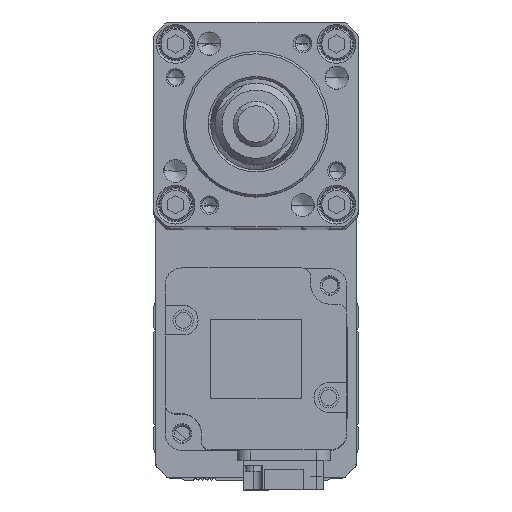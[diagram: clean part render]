
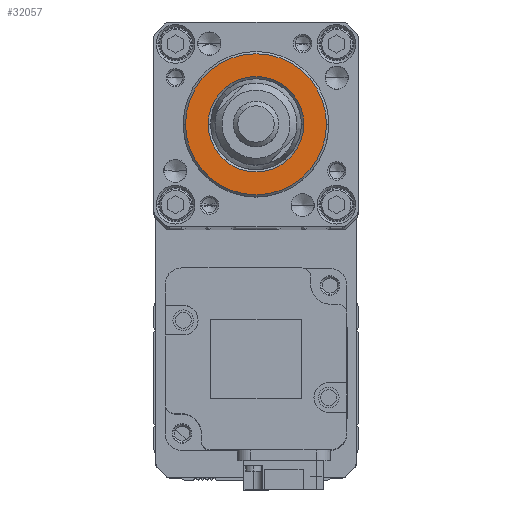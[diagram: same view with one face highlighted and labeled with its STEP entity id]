
A CAD part, top view. The second image highlights one B-rep face of the part: STEP entity #32057.
In plain terms, the highlighted planar face has unit normal (0, 0, 1).
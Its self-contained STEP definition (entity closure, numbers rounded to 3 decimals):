
#307 = AXIS2_PLACEMENT_3D ( 'NONE', #31688, #16621, #1593 ) ;
#928 = VERTEX_POINT ( 'NONE', #13318 ) ;
#1593 = DIRECTION ( 'NONE',  ( 1., 0., 0. ) ) ;
#2168 = EDGE_CURVE ( 'NONE', #11878, #30778, #12471, .T. ) ;
#2239 = EDGE_LOOP ( 'NONE', ( #18112, #6328 ) ) ;
#3425 = EDGE_CURVE ( 'NONE', #30778, #11878, #5704, .T. ) ;
#3732 = DIRECTION ( 'NONE',  ( 0., 0., -1. ) ) ;
#4718 = ORIENTED_EDGE ( 'NONE', *, *, #2168, .T. ) ;
#5704 = CIRCLE ( 'NONE', #16606, 15.5 ) ;
#6328 = ORIENTED_EDGE ( 'NONE', *, *, #25265, .T. ) ;
#7716 = DIRECTION ( 'NONE',  ( 0., 0., 1. ) ) ;
#9358 = DIRECTION ( 'NONE',  ( 0., 0., 1. ) ) ;
#11303 = AXIS2_PLACEMENT_3D ( 'NONE', #22773, #7716, #25284 ) ;
#11878 = VERTEX_POINT ( 'NONE', #12665 ) ;
#12471 = CIRCLE ( 'NONE', #11303, 15.5 ) ;
#12665 = CARTESIAN_POINT ( 'NONE',  ( 15.5, 0., 407. ) ) ;
#13030 = CARTESIAN_POINT ( 'NONE',  ( 0., 0., 407. ) ) ;
#13318 = CARTESIAN_POINT ( 'NONE',  ( -10.5, 0., 407. ) ) ;
#13371 = EDGE_LOOP ( 'NONE', ( #19810, #4718 ) ) ;
#15299 = CIRCLE ( 'NONE', #26042, 10.5 ) ;
#15564 = DIRECTION ( 'NONE',  ( 1., 0., 0. ) ) ;
#16606 = AXIS2_PLACEMENT_3D ( 'NONE', #13030, #30621, #15564 ) ;
#16621 = DIRECTION ( 'NONE',  ( 0., 0., -1. ) ) ;
#18112 = ORIENTED_EDGE ( 'NONE', *, *, #21764, .T. ) ;
#18794 = CARTESIAN_POINT ( 'NONE',  ( 0., 0., 407. ) ) ;
#19373 = PLANE ( 'NONE',  #28971 ) ;
#19810 = ORIENTED_EDGE ( 'NONE', *, *, #3425, .T. ) ;
#21085 = FACE_BOUND ( 'NONE', #2239, .T. ) ;
#21320 = DIRECTION ( 'NONE',  ( 1., 0., 0. ) ) ;
#21764 = EDGE_CURVE ( 'NONE', #22702, #928, #15299, .T. ) ;
#22702 = VERTEX_POINT ( 'NONE', #28401 ) ;
#22773 = CARTESIAN_POINT ( 'NONE',  ( 0., 0., 407. ) ) ;
#24326 = CARTESIAN_POINT ( 'NONE',  ( 0., 0., 407. ) ) ;
#24909 = CIRCLE ( 'NONE', #307, 10.5 ) ;
#25265 = EDGE_CURVE ( 'NONE', #928, #22702, #24909, .T. ) ;
#25284 = DIRECTION ( 'NONE',  ( 1., 0., 0. ) ) ;
#25400 = FACE_OUTER_BOUND ( 'NONE', #13371, .T. ) ;
#26042 = AXIS2_PLACEMENT_3D ( 'NONE', #18794, #3732, #21320 ) ;
#26978 = DIRECTION ( 'NONE',  ( 1., 0., 0. ) ) ;
#27891 = CARTESIAN_POINT ( 'NONE',  ( -15.5, 0., 407. ) ) ;
#28401 = CARTESIAN_POINT ( 'NONE',  ( 10.5, 0., 407. ) ) ;
#28971 = AXIS2_PLACEMENT_3D ( 'NONE', #24326, #9358, #26978 ) ;
#30621 = DIRECTION ( 'NONE',  ( 0., 0., 1. ) ) ;
#30778 = VERTEX_POINT ( 'NONE', #27891 ) ;
#31688 = CARTESIAN_POINT ( 'NONE',  ( 0., 0., 407. ) ) ;
#32057 = ADVANCED_FACE ( 'NONE', ( #21085, #25400 ), #19373, .T. ) ;
